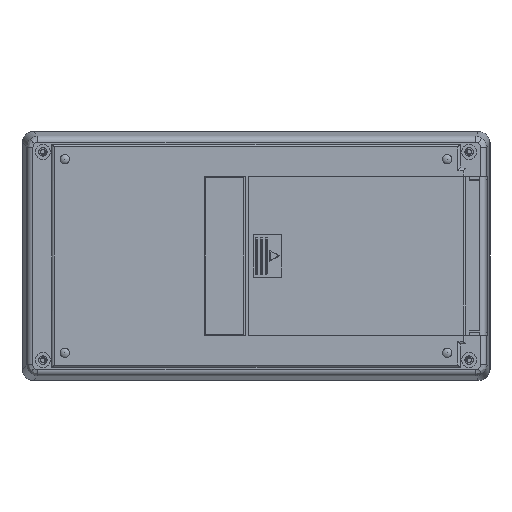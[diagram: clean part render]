
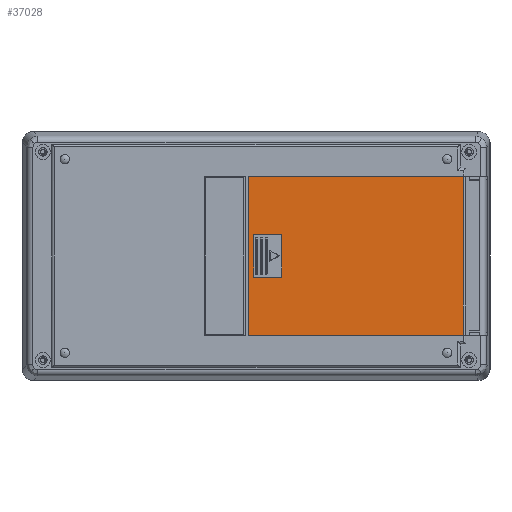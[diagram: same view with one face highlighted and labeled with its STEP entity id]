
A CAD part, front view. The second image highlights one B-rep face of the part: STEP entity #37028.
In plain terms, the highlighted planar face has unit normal (0, -1, 0).
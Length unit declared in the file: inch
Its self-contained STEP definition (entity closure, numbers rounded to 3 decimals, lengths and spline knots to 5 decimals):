
#464 = FACE_OUTER_BOUND ( 'NONE', #28152, .T. ) ;
#1209 = VECTOR ( 'NONE', #28247, 39.37008 ) ;
#1262 = VERTEX_POINT ( 'NONE', #27605 ) ;
#1492 = CARTESIAN_POINT ( 'NONE',  ( 4.43701, 0., -1.27559 ) ) ;
#1745 = VECTOR ( 'NONE', #20002, 39.37008 ) ;
#2409 = PLANE ( 'NONE',  #31940 ) ;
#2422 = CARTESIAN_POINT ( 'NONE',  ( 0.99213, 0., 1.27559 ) ) ;
#2760 = CARTESIAN_POINT ( 'NONE',  ( 0.99213, 0., -1.27559 ) ) ;
#3228 = DIRECTION ( 'NONE',  ( 1., 0., 0. ) ) ;
#3305 = EDGE_CURVE ( 'NONE', #27330, #25480, #26469, .T. ) ;
#3563 = EDGE_CURVE ( 'NONE', #16706, #22639, #24148, .T. ) ;
#4249 = ORIENTED_EDGE ( 'NONE', *, *, #33633, .F. ) ;
#5891 = VECTOR ( 'NONE', #33803, 39.37008 ) ;
#5989 = EDGE_CURVE ( 'NONE', #10064, #20695, #12513, .T. ) ;
#8121 = ORIENTED_EDGE ( 'NONE', *, *, #33088, .F. ) ;
#8264 = DIRECTION ( 'NONE',  ( 0., 0., -1. ) ) ;
#9874 = LINE ( 'NONE', #36932, #1209 ) ;
#10064 = VERTEX_POINT ( 'NONE', #2760 ) ;
#10310 = CARTESIAN_POINT ( 'NONE',  ( 1.52362, 0., 0.34449 ) ) ;
#10388 = ORIENTED_EDGE ( 'NONE', *, *, #5989, .T. ) ;
#11435 = EDGE_CURVE ( 'NONE', #1262, #16706, #25285, .T. ) ;
#11575 = VECTOR ( 'NONE', #35993, 39.37008 ) ;
#12513 = LINE ( 'NONE', #27180, #11575 ) ;
#13669 = LINE ( 'NONE', #10310, #5891 ) ;
#14146 = DIRECTION ( 'NONE',  ( 0., 0., 1. ) ) ;
#14345 = LINE ( 'NONE', #2422, #21224 ) ;
#14481 = CARTESIAN_POINT ( 'NONE',  ( 4.43701, 0., 1.27559 ) ) ;
#15955 = FACE_BOUND ( 'NONE', #21327, .T. ) ;
#16101 = CARTESIAN_POINT ( 'NONE',  ( 4.43701, 0., 1.27559 ) ) ;
#16553 = VECTOR ( 'NONE', #3228, 39.37008 ) ;
#16706 = VERTEX_POINT ( 'NONE', #34052 ) ;
#16943 = CARTESIAN_POINT ( 'NONE',  ( 1.07087, 0., 0.34449 ) ) ;
#18828 = ORIENTED_EDGE ( 'NONE', *, *, #3563, .F. ) ;
#19877 = CARTESIAN_POINT ( 'NONE',  ( 0.99213, 0., 1.27559 ) ) ;
#20002 = DIRECTION ( 'NONE',  ( 0., 0., 1. ) ) ;
#20695 = VERTEX_POINT ( 'NONE', #1492 ) ;
#20758 = ORIENTED_EDGE ( 'NONE', *, *, #29564, .T. ) ;
#21224 = VECTOR ( 'NONE', #8264, 39.37008 ) ;
#21300 = EDGE_CURVE ( 'NONE', #29554, #1262, #9874, .T. ) ;
#21327 = EDGE_LOOP ( 'NONE', ( #8121, #18828, #23425, #36370 ) ) ;
#22088 = ORIENTED_EDGE ( 'NONE', *, *, #3305, .F. ) ;
#22615 = CARTESIAN_POINT ( 'NONE',  ( 1.52362, 0., 0.34449 ) ) ;
#22639 = VERTEX_POINT ( 'NONE', #22615 ) ;
#23425 = ORIENTED_EDGE ( 'NONE', *, *, #11435, .F. ) ;
#23437 = CARTESIAN_POINT ( 'NONE',  ( 0.99213, 0., 1.27559 ) ) ;
#24148 = LINE ( 'NONE', #37515, #1745 ) ;
#25285 = LINE ( 'NONE', #32352, #16553 ) ;
#25480 = VERTEX_POINT ( 'NONE', #14481 ) ;
#25844 = DIRECTION ( 'NONE',  ( 1., 0., 0. ) ) ;
#26469 = LINE ( 'NONE', #31439, #33301 ) ;
#27180 = CARTESIAN_POINT ( 'NONE',  ( 0.99213, 0., -1.27559 ) ) ;
#27330 = VERTEX_POINT ( 'NONE', #23437 ) ;
#27605 = CARTESIAN_POINT ( 'NONE',  ( 1.07087, 0., -0.34449 ) ) ;
#28152 = EDGE_LOOP ( 'NONE', ( #10388, #4249, #22088, #20758 ) ) ;
#28247 = DIRECTION ( 'NONE',  ( 0., 0., -1. ) ) ;
#29554 = VERTEX_POINT ( 'NONE', #16943 ) ;
#29564 = EDGE_CURVE ( 'NONE', #27330, #10064, #14345, .T. ) ;
#31439 = CARTESIAN_POINT ( 'NONE',  ( 0.99213, 0., 1.27559 ) ) ;
#31633 = DIRECTION ( 'NONE',  ( 0., 1., 0. ) ) ;
#31940 = AXIS2_PLACEMENT_3D ( 'NONE', #19877, #31633, #14146 ) ;
#32352 = CARTESIAN_POINT ( 'NONE',  ( 1.52362, 0., -0.34449 ) ) ;
#33088 = EDGE_CURVE ( 'NONE', #22639, #29554, #13669, .T. ) ;
#33301 = VECTOR ( 'NONE', #25844, 39.37008 ) ;
#33633 = EDGE_CURVE ( 'NONE', #25480, #20695, #34216, .T. ) ;
#33803 = DIRECTION ( 'NONE',  ( -1., 0., 0. ) ) ;
#34052 = CARTESIAN_POINT ( 'NONE',  ( 1.52362, 0., -0.34449 ) ) ;
#34216 = LINE ( 'NONE', #16101, #35139 ) ;
#35139 = VECTOR ( 'NONE', #36574, 39.37008 ) ;
#35993 = DIRECTION ( 'NONE',  ( 1., 0., 0. ) ) ;
#36370 = ORIENTED_EDGE ( 'NONE', *, *, #21300, .F. ) ;
#36574 = DIRECTION ( 'NONE',  ( 0., 0., -1. ) ) ;
#36932 = CARTESIAN_POINT ( 'NONE',  ( 1.07087, 0., 0.34449 ) ) ;
#37028 = ADVANCED_FACE ( 'NONE', ( #15955, #464 ), #2409, .F. ) ;
#37515 = CARTESIAN_POINT ( 'NONE',  ( 1.52362, 0., 0.34449 ) ) ;
